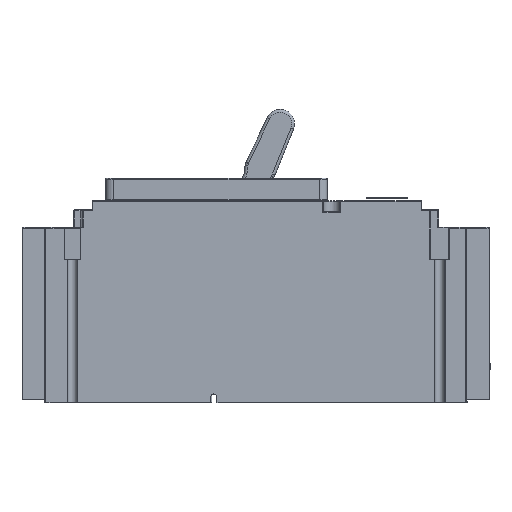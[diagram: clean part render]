
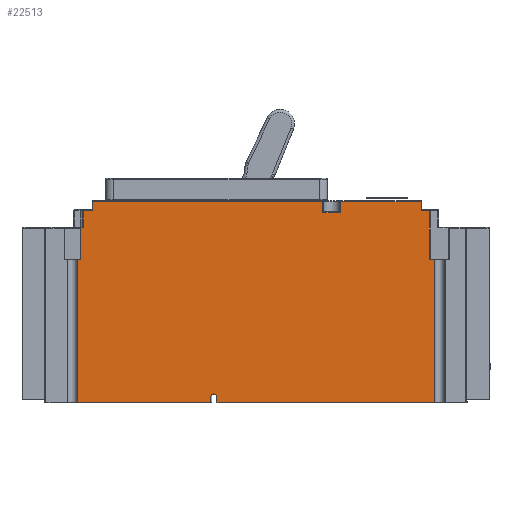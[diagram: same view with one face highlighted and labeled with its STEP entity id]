
A CAD part, left-side view. The second image highlights one B-rep face of the part: STEP entity #22513.
In plain terms, the highlighted planar face has unit normal (-1, 0, 0).
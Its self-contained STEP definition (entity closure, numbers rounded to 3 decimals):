
#3030=DIRECTION('',(0.,1.,0.));
#3031=VECTOR('',#3030,1.35);
#3032=CARTESIAN_POINT('',(0.,221.65,95.5));
#3033=LINE('',#3032,#3031);
#3420=DIRECTION('',(0.,1.,0.));
#3421=VECTOR('',#3420,9.7);
#3422=CARTESIAN_POINT('',(0.,81.4,103.5));
#3423=LINE('',#3422,#3421);
#3424=DIRECTION('',(0.,0.,-1.));
#3425=VECTOR('',#3424,6.);
#3426=CARTESIAN_POINT('',(0.,81.4,109.5));
#3427=LINE('',#3426,#3425);
#3428=DIRECTION('',(0.,-1.,0.));
#3429=VECTOR('',#3428,4.5);
#3430=CARTESIAN_POINT('',(0.,37.498,104.5));
#3431=LINE('',#3430,#3429);
#3432=DIRECTION('',(0.,0.,-1.));
#3433=VECTOR('',#3432,26.5);
#3434=CARTESIAN_POINT('',(0.,32.998,104.5));
#3435=LINE('',#3434,#3433);
#3436=DIRECTION('',(0.,0.,1.));
#3437=VECTOR('',#3436,78.);
#3438=CARTESIAN_POINT('',(0.,30.044,0.));
#3439=LINE('',#3438,#3437);
#3440=DIRECTION('',(0.,0.,1.));
#3441=VECTOR('',#3440,2.918);
#3442=CARTESIAN_POINT('',(0.,148.75,0.));
#3443=LINE('',#3442,#3441);
#3444=DIRECTION('',(0.,0.,1.));
#3445=VECTOR('',#3444,2.918);
#3446=CARTESIAN_POINT('',(0.,152.25,0.));
#3447=LINE('',#3446,#3445);
#3448=DIRECTION('',(0.,0.,1.));
#3449=VECTOR('',#3448,78.);
#3450=CARTESIAN_POINT('',(0.,224.95,0.));
#3451=LINE('',#3450,#3449);
#3452=DIRECTION('',(0.,1.,0.));
#3453=VECTOR('',#3452,1.95);
#3454=CARTESIAN_POINT('',(0.,223.,78.));
#3455=LINE('',#3454,#3453);
#3456=DIRECTION('',(0.,0.,1.));
#3457=VECTOR('',#3456,17.5);
#3458=CARTESIAN_POINT('',(0.,223.,78.));
#3459=LINE('',#3458,#3457);
#3460=DIRECTION('',(0.,0.,-1.));
#3461=VECTOR('',#3460,9.);
#3462=CARTESIAN_POINT('',(0.,221.65,104.5));
#3463=LINE('',#3462,#3461);
#3464=DIRECTION('',(0.,1.,0.));
#3465=VECTOR('',#3464,4.943);
#3466=CARTESIAN_POINT('',(0.,216.707,104.5));
#3467=LINE('',#3466,#3465);
#3468=DIRECTION('',(0.,1.,0.));
#3469=VECTOR('',#3468,125.607);
#3470=CARTESIAN_POINT('',(0.,91.1,109.5));
#3471=LINE('',#3470,#3469);
#3472=DIRECTION('',(0.,0.,1.));
#3473=VECTOR('',#3472,6.);
#3474=CARTESIAN_POINT('',(0.,91.1,103.5));
#3475=LINE('',#3474,#3473);
#3951=DIRECTION('',(0.,1.,0.));
#3952=VECTOR('',#3951,2.954);
#3953=CARTESIAN_POINT('',(0.,30.044,78.));
#3954=LINE('',#3953,#3952);
#4002=DIRECTION('',(0.,-1.,0.));
#4003=VECTOR('',#4002,118.706);
#4004=CARTESIAN_POINT('',(0.,148.75,0.));
#4005=LINE('',#4004,#4003);
#4354=DIRECTION('',(0.,-1.,0.));
#4355=VECTOR('',#4354,72.7);
#4356=CARTESIAN_POINT('',(0.,224.95,0.));
#4357=LINE('',#4356,#4355);
#5746=DIRECTION('',(0.,0.,1.));
#5747=VECTOR('',#5746,5.);
#5748=CARTESIAN_POINT('',(0.,37.498,104.5));
#5749=LINE('',#5748,#5747);
#5818=DIRECTION('',(0.,1.,0.));
#5819=VECTOR('',#5818,43.902);
#5820=CARTESIAN_POINT('',(0.,37.498,109.5));
#5821=LINE('',#5820,#5819);
#7194=DIRECTION('',(0.,0.,-1.));
#7195=VECTOR('',#7194,5.);
#7196=CARTESIAN_POINT('',(0.,216.707,109.5));
#7197=LINE('',#7196,#7195);
#12539=CARTESIAN_POINT('',(0.,150.5,2.918));
#12540=DIRECTION('',(1.,0.,0.));
#12541=DIRECTION('',(0.,1.,0.));
#12542=AXIS2_PLACEMENT_3D('',#12539,#12540,#12541);
#14904=CARTESIAN_POINT('',(0.,223.,78.));
#14905=CARTESIAN_POINT('',(0.,223.,95.5));
#14906=VERTEX_POINT('',#14904);
#14907=VERTEX_POINT('',#14905);
#15196=CARTESIAN_POINT('',(0.,224.95,0.));
#15197=CARTESIAN_POINT('',(0.,224.95,78.));
#15198=VERTEX_POINT('',#15196);
#15199=VERTEX_POINT('',#15197);
#15216=CARTESIAN_POINT('',(0.,30.044,0.));
#15217=CARTESIAN_POINT('',(0.,30.044,78.));
#15218=VERTEX_POINT('',#15216);
#15219=VERTEX_POINT('',#15217);
#17924=CARTESIAN_POINT('',(0.,37.498,109.5));
#17926=VERTEX_POINT('',#17924);
#18004=CARTESIAN_POINT('',(0.,216.707,109.5));
#18006=VERTEX_POINT('',#18004);
#18095=CARTESIAN_POINT('',(0.,148.75,0.));
#18096=CARTESIAN_POINT('',(0.,148.75,2.918));
#18097=VERTEX_POINT('',#18095);
#18098=VERTEX_POINT('',#18096);
#18099=CARTESIAN_POINT('',(0.,152.25,0.));
#18100=CARTESIAN_POINT('',(0.,152.25,2.918));
#18101=VERTEX_POINT('',#18099);
#18102=VERTEX_POINT('',#18100);
#18283=CARTESIAN_POINT('',(0.,221.65,104.5));
#18284=CARTESIAN_POINT('',(0.,221.65,95.5));
#18285=VERTEX_POINT('',#18283);
#18286=VERTEX_POINT('',#18284);
#18289=CARTESIAN_POINT('',(0.,216.707,104.5));
#18290=VERTEX_POINT('',#18289);
#18381=CARTESIAN_POINT('',(0.,81.4,103.5));
#18382=CARTESIAN_POINT('',(0.,91.1,103.5));
#18383=VERTEX_POINT('',#18381);
#18384=VERTEX_POINT('',#18382);
#18385=CARTESIAN_POINT('',(0.,91.1,109.5));
#18386=VERTEX_POINT('',#18385);
#18403=CARTESIAN_POINT('',(0.,81.4,109.5));
#18404=VERTEX_POINT('',#18403);
#18405=CARTESIAN_POINT('',(0.,32.998,104.5));
#18406=CARTESIAN_POINT('',(0.,32.998,78.));
#18407=VERTEX_POINT('',#18405);
#18408=VERTEX_POINT('',#18406);
#18417=CARTESIAN_POINT('',(0.,37.498,104.5));
#18418=VERTEX_POINT('',#18417);
#22464=CARTESIAN_POINT('',(0.,255.,0.));
#22465=DIRECTION('',(-1.,0.,0.));
#22466=DIRECTION('',(0.,-1.,0.));
#22467=AXIS2_PLACEMENT_3D('',#22464,#22465,#22466);
#22468=PLANE('',#22467);
#22470=ORIENTED_EDGE('',*,*,#22469,.F.);
#22472=ORIENTED_EDGE('',*,*,#22471,.F.);
#22474=ORIENTED_EDGE('',*,*,#22473,.F.);
#22476=ORIENTED_EDGE('',*,*,#22475,.F.);
#22478=ORIENTED_EDGE('',*,*,#22477,.T.);
#22480=ORIENTED_EDGE('',*,*,#22479,.T.);
#22482=ORIENTED_EDGE('',*,*,#22481,.F.);
#22484=ORIENTED_EDGE('',*,*,#22483,.F.);
#22486=ORIENTED_EDGE('',*,*,#22485,.F.);
#22488=ORIENTED_EDGE('',*,*,#22487,.T.);
#22490=ORIENTED_EDGE('',*,*,#22489,.F.);
#22492=ORIENTED_EDGE('',*,*,#22491,.F.);
#22494=ORIENTED_EDGE('',*,*,#22493,.F.);
#22496=ORIENTED_EDGE('',*,*,#22495,.T.);
#22498=ORIENTED_EDGE('',*,*,#22497,.F.);
#22500=ORIENTED_EDGE('',*,*,#22499,.T.);
#22501=ORIENTED_EDGE('',*,*,#22138,.F.);
#22503=ORIENTED_EDGE('',*,*,#22502,.F.);
#22504=ORIENTED_EDGE('',*,*,#22454,.F.);
#22506=ORIENTED_EDGE('',*,*,#22505,.F.);
#22508=ORIENTED_EDGE('',*,*,#22507,.F.);
#22510=ORIENTED_EDGE('',*,*,#22509,.F.);
#22511=EDGE_LOOP('',(#22470,#22472,#22474,#22476,#22478,#22480,#22482,#22484,
#22486,#22488,#22490,#22492,#22494,#22496,#22498,#22500,#22501,#22503,#22504,
#22506,#22508,#22510));
#22512=FACE_OUTER_BOUND('',#22511,.F.);
#22513=ADVANCED_FACE('',(#22512),#22468,.T.);
#12543=CIRCLE('',#12542,1.75);
#22138=EDGE_CURVE('',#18286,#14907,#3033,.T.);
#22454=EDGE_CURVE('',#18290,#18285,#3467,.T.);
#22469=EDGE_CURVE('',#18383,#18384,#3423,.T.);
#22471=EDGE_CURVE('',#18404,#18383,#3427,.T.);
#22473=EDGE_CURVE('',#17926,#18404,#5821,.T.);
#22475=EDGE_CURVE('',#18418,#17926,#5749,.T.);
#22477=EDGE_CURVE('',#18418,#18407,#3431,.T.);
#22479=EDGE_CURVE('',#18407,#18408,#3435,.T.);
#22481=EDGE_CURVE('',#15219,#18408,#3954,.T.);
#22483=EDGE_CURVE('',#15218,#15219,#3439,.T.);
#22485=EDGE_CURVE('',#18097,#15218,#4005,.T.);
#22487=EDGE_CURVE('',#18097,#18098,#3443,.T.);
#22489=EDGE_CURVE('',#18102,#18098,#12543,.T.);
#22491=EDGE_CURVE('',#18101,#18102,#3447,.T.);
#22493=EDGE_CURVE('',#15198,#18101,#4357,.T.);
#22495=EDGE_CURVE('',#15198,#15199,#3451,.T.);
#22497=EDGE_CURVE('',#14906,#15199,#3455,.T.);
#22499=EDGE_CURVE('',#14906,#14907,#3459,.T.);
#22502=EDGE_CURVE('',#18285,#18286,#3463,.T.);
#22505=EDGE_CURVE('',#18006,#18290,#7197,.T.);
#22507=EDGE_CURVE('',#18386,#18006,#3471,.T.);
#22509=EDGE_CURVE('',#18384,#18386,#3475,.T.);
